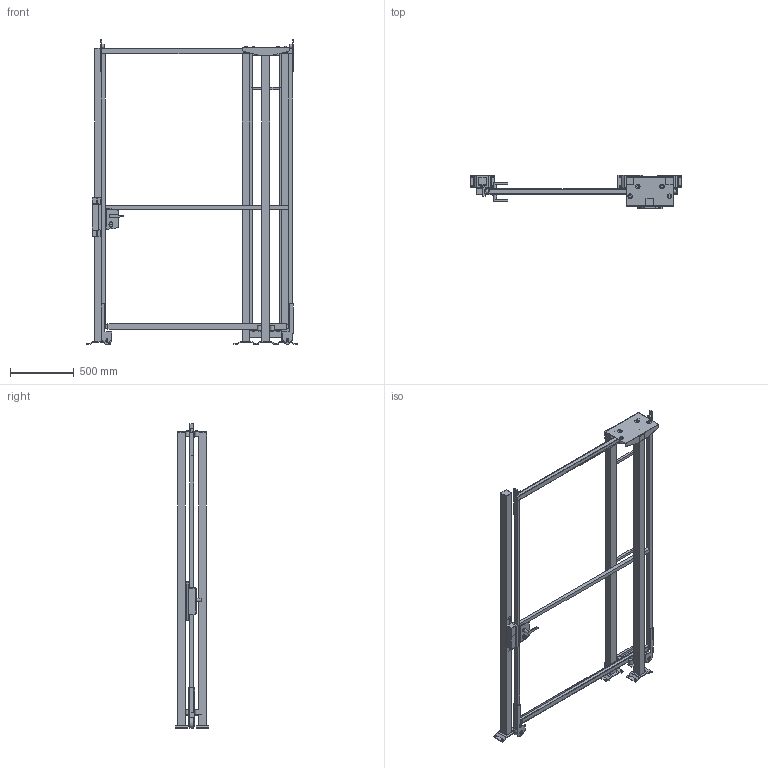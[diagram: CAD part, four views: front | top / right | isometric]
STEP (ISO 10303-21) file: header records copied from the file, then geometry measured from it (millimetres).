
FILE_DESCRIPTION(/* description */ (''),/* implementation_level */ '2;1');
FILE_NAME(/* name */ 'C:\SafeGuarding\ELABORATI\KLADKOUGAMMA_2025-03-20-14-28-33.stp',/* time_stamp */ '2025-03-20T14:28:35+01:00',/* author */ ('admin'),/* organization */ (''),/* preprocessor_version */ 'ST-DEVELOPER v18.1',/* originating_system */ 'AutoCAD Mechanical',/* authorisation */ '');
FILE_SCHEMA (('AUTOMOTIVE_DESIGN { 1 0 10303 214 3 1 1 }'));
Length unit declared in the file: millimetre
Products named in the file (5): Product; R_VFPA.REPE30.15002200; R_VFPA.REPE20.02502200; P_VFMA.V260SDU.2320; R_VFPA.REPE20.02501900
Assembly tree (7 placements, depth 2):
  Product
    R_VFPA.REPE30.15002200
    P_VFMA.V260SDU.2320  x4
    R_VFPA.REPE20.02502200
    R_VFPA.REPE20.02501900
Bounding box: 1661.92 x 264 x 2390.02 mm (x, y, z)
Volume: 49587157.4 mm3; surface area: 6527288.9 mm2
Topology: 67 solids, 67 shells, 602 faces, 1712 edges, 1656 vertices
Faces by surface type: plane 524, cylinder 74, bspline 4
Full cylindrical faces by diameter (mm): 9 x4, 11 x16, 13 x4, 18 x1, 25 x2, 25.398 x2, 30 x6, 36 x8, 80 x2
Entity records: 17816 total; most frequent: CARTESIAN_POINT 4610, DIRECTION 2632, ORIENTED_EDGE 2350, LINE 1192, VECTOR 1192, EDGE_CURVE 1175, VERTEX_POINT 790, AXIS2_PLACEMENT_3D 720
